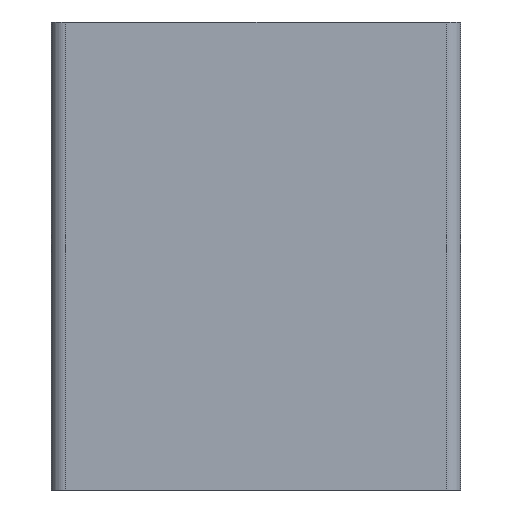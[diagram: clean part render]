
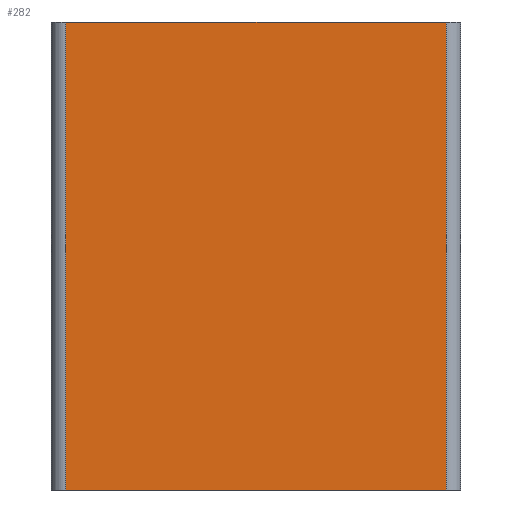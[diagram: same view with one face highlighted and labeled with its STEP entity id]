
A CAD part, left-side view. The second image highlights one B-rep face of the part: STEP entity #282.
In plain terms, the highlighted planar face has unit normal (-1, 0, 0).
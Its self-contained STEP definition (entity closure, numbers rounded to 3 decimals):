
#15 = CARTESIAN_POINT ( 'NONE',  ( -1.6, 1.35, -0.8 ) ) ;
#16 = VERTEX_POINT ( 'NONE', #15 ) ;
#26 = CARTESIAN_POINT ( 'NONE',  ( -1.6, 1.35, 0.8 ) ) ;
#27 = VERTEX_POINT ( 'NONE', #26 ) ;
#28 = CARTESIAN_POINT ( 'NONE',  ( -1.6, 1.35, -0.8 ) ) ;
#29 = DIRECTION ( 'NONE',  ( 0., 0., -1. ) ) ;
#30 = VECTOR ( 'NONE', #29, 1000. ) ;
#31 = LINE ( 'NONE', #28, #30 ) ;
#32 = EDGE_CURVE ( 'NONE', #27, #16, #31, .T. ) ;
#252 = CARTESIAN_POINT ( 'NONE',  ( -1.6, 0.05, -0.8 ) ) ;
#253 = VERTEX_POINT ( 'NONE', #252 ) ;
#254 = CARTESIAN_POINT ( 'NONE',  ( -1.6, 1.4, -0.8 ) ) ;
#255 = DIRECTION ( 'NONE',  ( 0., -1., 0. ) ) ;
#256 = VECTOR ( 'NONE', #255, 1000. ) ;
#257 = LINE ( 'NONE', #254, #256 ) ;
#258 = EDGE_CURVE ( 'NONE', #16, #253, #257, .T. ) ;
#259 = ORIENTED_EDGE ( 'NONE', *, *, #258, .T. ) ;
#260 = CARTESIAN_POINT ( 'NONE',  ( -1.6, 0.05, 0.8 ) ) ;
#261 = VERTEX_POINT ( 'NONE', #260 ) ;
#262 = CARTESIAN_POINT ( 'NONE',  ( -1.6, 0.05, -0.8 ) ) ;
#263 = DIRECTION ( 'NONE',  ( 0., 0., 1. ) ) ;
#264 = VECTOR ( 'NONE', #263, 1000. ) ;
#265 = LINE ( 'NONE', #262, #264 ) ;
#266 = EDGE_CURVE ( 'NONE', #253, #261, #265, .T. ) ;
#267 = ORIENTED_EDGE ( 'NONE', *, *, #266, .T. ) ;
#268 = CARTESIAN_POINT ( 'NONE',  ( -1.6, 1.4, 0.8 ) ) ;
#269 = DIRECTION ( 'NONE',  ( 0., -1., 0. ) ) ;
#270 = VECTOR ( 'NONE', #269, 1000. ) ;
#271 = LINE ( 'NONE', #268, #270 ) ;
#272 = EDGE_CURVE ( 'NONE', #27, #261, #271, .T. ) ;
#273 = ORIENTED_EDGE ( 'NONE', *, *, #272, .F. ) ;
#274 = ORIENTED_EDGE ( 'NONE', *, *, #32, .T. ) ;
#275 = EDGE_LOOP ( 'NONE', ( #259, #267, #273, #274 ) ) ;
#276 = FACE_OUTER_BOUND ( 'NONE', #275, .T. ) ;
#277 = CARTESIAN_POINT ( 'NONE',  ( -1.6, 1.4, -0.8 ) ) ;
#278 = DIRECTION ( 'NONE',  ( -1., 0., 0. ) ) ;
#279 = DIRECTION ( 'NONE',  ( 0., -1., 0. ) ) ;
#280 = AXIS2_PLACEMENT_3D ( 'NONE', #277, #278, #279 ) ;
#281 = PLANE ( 'NONE', #280 ) ;
#282 = ADVANCED_FACE ( 'NONE', ( #276 ), #281, .T. ) ;
